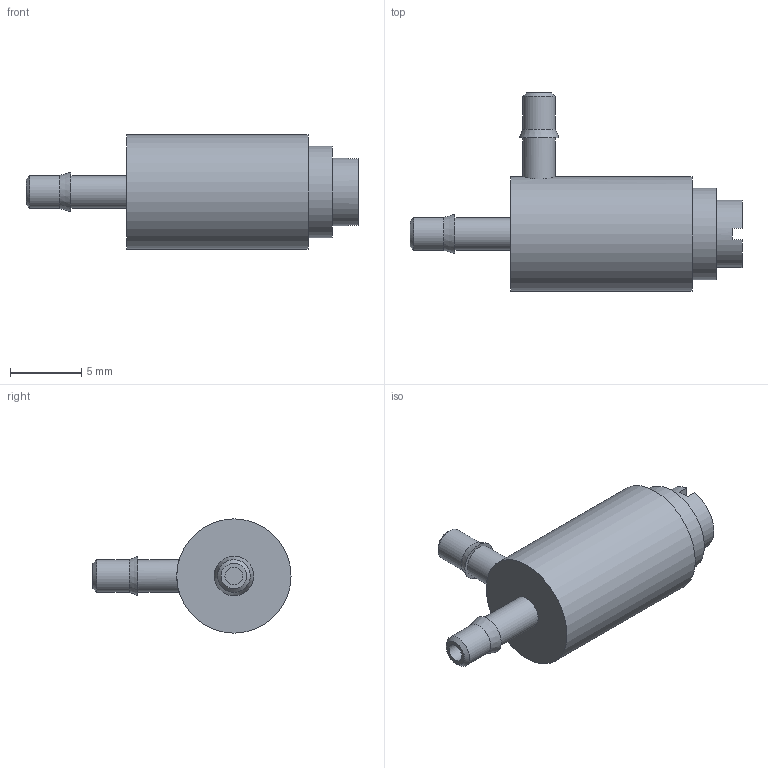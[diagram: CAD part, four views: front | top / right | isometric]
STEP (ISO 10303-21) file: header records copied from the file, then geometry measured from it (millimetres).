
FILE_DESCRIPTION(/* description */ ('SolidWorks IGES file using NURBS representation for surfaces '),/* implementation_level */ '2;1');
FILE_NAME(/* name */ 'K:\Normteile INVENTOR\Air-Logic\Needle Valves\F-2822-30-B80.IGS.ipt.stp',/* time_stamp */ '2020-05-27T10:40:48+02:00',/* author */ ('amarsh'),/* organization */ (''),/* preprocessor_version */ 'ST-DEVELOPER v18',/* originating_system */ 'Autodesk Inventor 2020',/* authorisation */ '');
FILE_SCHEMA (('AUTOMOTIVE_DESIGN { 1 0 10303 214 3 1 1 }'));
Length unit declared in the file: millimetre
Products named in the file (1): F-2822-30-B80.IGS
Bounding box: 23.24 x 13.87 x 8 mm (x, y, z)
Volume: 760 mm3; surface area: 668 mm2
Topology: 2 solids, 2 shells, 28 faces, 72 edges, 55 vertices
Faces by surface type: plane 14, cylinder 10, cone 4
Full cylindrical faces by diameter (mm): 1.25 x2, 2.29 x4, 4.7 x1, 6.4 x1, 8 x1
Entity records: 1021 total; most frequent: CARTESIAN_POINT 225, DIRECTION 173, ORIENTED_EDGE 144, AXIS2_PLACEMENT_3D 76, EDGE_CURVE 72, VERTEX_POINT 55, CIRCLE 47, EDGE_LOOP 35
